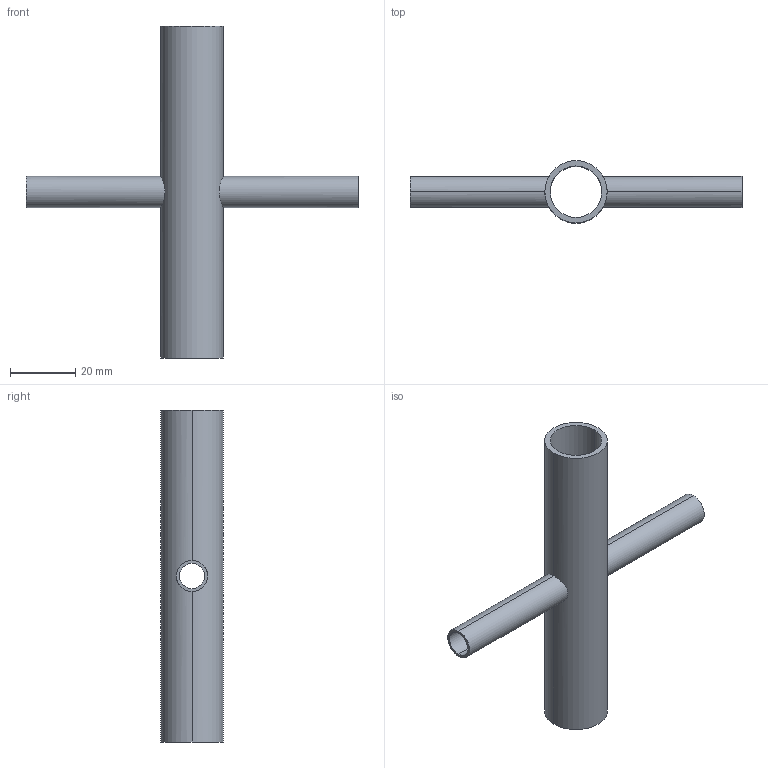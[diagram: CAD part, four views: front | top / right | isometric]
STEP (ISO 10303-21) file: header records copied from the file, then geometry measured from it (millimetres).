
FILE_DESCRIPTION (( 'STEP AP214' ), '1' );
FILE_NAME ('TE9RWWWW6L.75x.375-...STEP', '2016-05-22T04:08:38', ( 'eran' ), ( '' ), 'SwSTEP 2.0', 'SolidWorks 2016', '' );
FILE_SCHEMA (( 'AUTOMOTIVE_DESIGN' ));
Length unit declared in the file: millimetre
Products named in the file (1): TE9RWWWW6L.75x.375-..
Bounding box: 101.6 x 19.05 x 101.6 mm (x, y, z)
Volume: 11025 mm3; surface area: 15712.4 mm2
Topology: 1 solids, 1 shells, 16 faces, 40 edges, 24 vertices
Faces by surface type: cylinder 12, plane 4
Entity records: 786 total; most frequent: CARTESIAN_POINT 361, DIRECTION 82, ORIENTED_EDGE 80, EDGE_CURVE 40, AXIS2_PLACEMENT_3D 33, VERTEX_POINT 24, EDGE_LOOP 20, FACE_OUTER_BOUND 16
